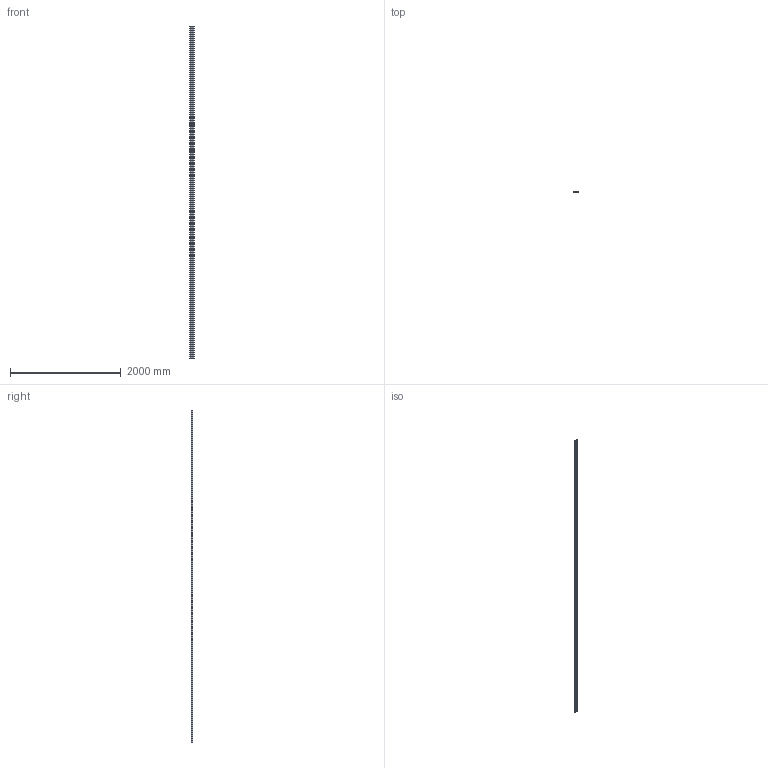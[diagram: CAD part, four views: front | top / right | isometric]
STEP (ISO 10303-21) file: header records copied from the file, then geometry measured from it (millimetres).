
FILE_DESCRIPTION (( 'STEP AP214' ), '1' );
FILE_NAME ('20x80 Slot 6 100mm.STEP', '2017-08-05T19:39:35', ( 'Ahmed' ), ( '' ), 'SwSTEP 2.0', 'SolidWorks 2016', '' );
FILE_SCHEMA (( 'AUTOMOTIVE_DESIGN' ));
Length unit declared in the file: millimetre
Products named in the file (2): 20x80 Slot 6 100mm
Bounding box: 80.1 x 20 x 6000 mm (x, y, z)
Volume: 2850519.1 mm3; surface area: 3748180.8 mm2
Topology: 1 solids, 1 shells, 460 faces, 1353 edges, 902 vertices
Faces by surface type: plane 252, cylinder 182, bspline 26
Entity records: 17214 total; most frequent: CARTESIAN_POINT 4695, ORIENTED_EDGE 2706, DIRECTION 2537, EDGE_CURVE 1353, LINE 937, VECTOR 937, VERTEX_POINT 902, AXIS2_PLACEMENT_3D 800
